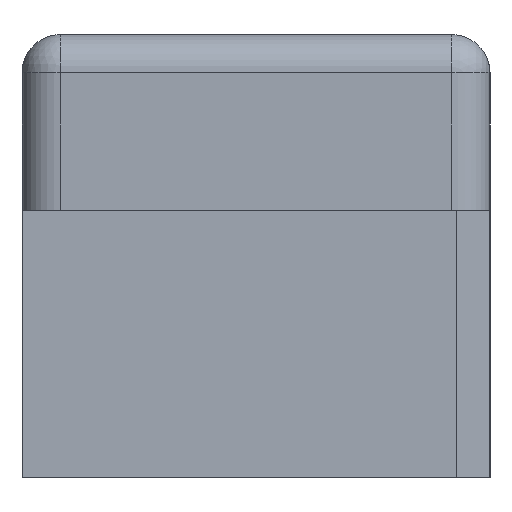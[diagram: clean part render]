
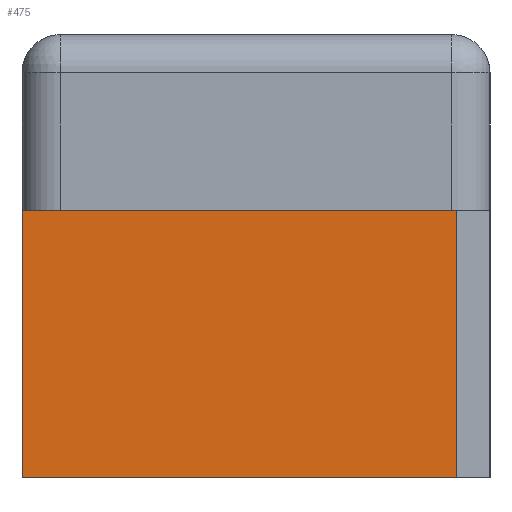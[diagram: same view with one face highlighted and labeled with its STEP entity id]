
A CAD part, left-side view. The second image highlights one B-rep face of the part: STEP entity #475.
In plain terms, the highlighted planar face has unit normal (-1, 0, 0).
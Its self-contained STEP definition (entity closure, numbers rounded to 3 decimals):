
#65=DIRECTION('',(0.,0.,1.));
#66=VECTOR('',#65,8.);
#67=CARTESIAN_POINT('',(0.,1.,0.));
#68=LINE('',#67,#66);
#69=DIRECTION('',(0.,1.,0.));
#70=VECTOR('',#69,13.);
#71=CARTESIAN_POINT('',(0.,1.,0.));
#72=LINE('',#71,#70);
#77=DIRECTION('',(0.,0.,-1.));
#78=VECTOR('',#77,8.);
#79=CARTESIAN_POINT('',(0.,14.,8.));
#80=LINE('',#79,#78);
#105=DIRECTION('',(0.,1.,0.));
#106=VECTOR('',#105,13.);
#107=CARTESIAN_POINT('',(0.,1.,8.));
#108=LINE('',#107,#106);
#305=CARTESIAN_POINT('',(0.,1.,0.));
#307=VERTEX_POINT('',#305);
#313=CARTESIAN_POINT('',(0.,14.,0.));
#314=VERTEX_POINT('',#313);
#339=CARTESIAN_POINT('',(0.,1.,8.));
#340=VERTEX_POINT('',#339);
#343=CARTESIAN_POINT('',(0.,14.,8.));
#344=VERTEX_POINT('',#343);
#462=CARTESIAN_POINT('',(0.,14.,0.));
#463=DIRECTION('',(-1.,0.,0.));
#464=DIRECTION('',(0.,-1.,0.));
#465=AXIS2_PLACEMENT_3D('',#462,#463,#464);
#466=PLANE('',#465);
#467=ORIENTED_EDGE('',*,*,#453,.F.);
#468=ORIENTED_EDGE('',*,*,#410,.T.);
#470=ORIENTED_EDGE('',*,*,#469,.F.);
#472=ORIENTED_EDGE('',*,*,#471,.F.);
#473=EDGE_LOOP('',(#467,#468,#470,#472));
#474=FACE_OUTER_BOUND('',#473,.F.);
#475=ADVANCED_FACE('',(#474),#466,.T.);
#410=EDGE_CURVE('',#307,#314,#72,.T.);
#453=EDGE_CURVE('',#307,#340,#68,.T.);
#469=EDGE_CURVE('',#344,#314,#80,.T.);
#471=EDGE_CURVE('',#340,#344,#108,.T.);
